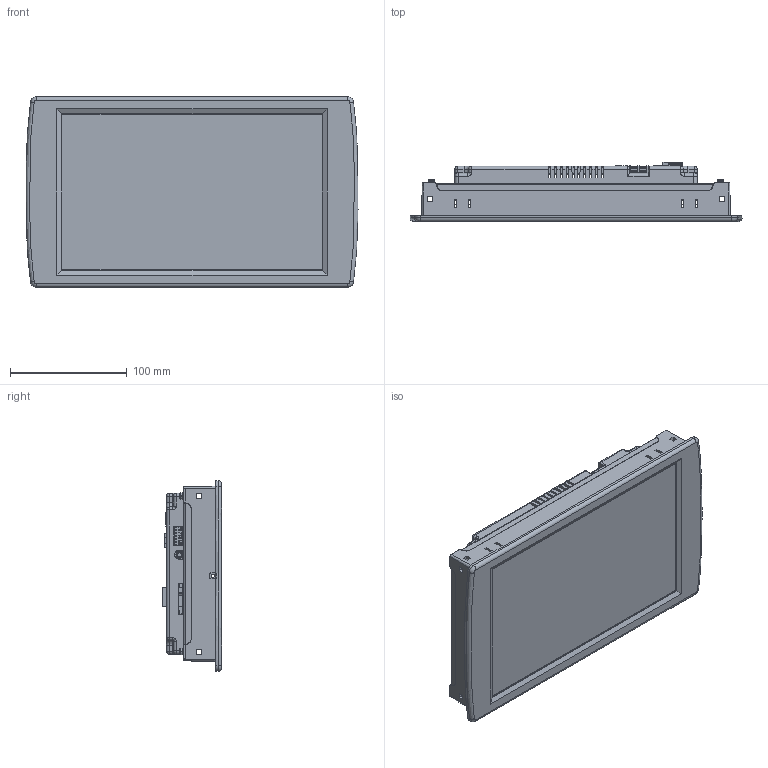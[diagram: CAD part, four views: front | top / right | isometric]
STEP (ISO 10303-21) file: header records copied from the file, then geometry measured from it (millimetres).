
FILE_DESCRIPTION (( 'STEP AP214' ), '1' );
FILE_NAME ('CUWIN6300_HMI粽塭鰍瞳辨_ASM.STEP', '2017-08-03T05:05:48', ( 'luke' ), ( '' ), 'SwSTEP 2.0', 'SolidWorks 2016', '' );
FILE_SCHEMA (( 'AUTOMOTIVE_DESIGN' ));
Length unit declared in the file: millimetre
Products named in the file (1): CUWIN6300_HMI粽塭鰍瞳辨_ASM
Bounding box: 283.88 x 50.7 x 163 mm (x, y, z)
Surface area: 255178 mm2 (no closed solid volume)
Topology: 0 solids, 108 shells, 1984 faces, 8381 edges, 6223 vertices
Faces by surface type: plane 1181, cylinder 359, bspline 250, cone 93, torus 86, sphere 15
Entity records: 130438 total; most frequent: CARTESIAN_POINT 45260, ORIENTED_EDGE 12214, DIRECTION 11245, EDGE_CURVE 8359, VERTEX_POINT 6215, LINE 5525, VECTOR 5525, AXIS2_PLACEMENT_3D 2860
